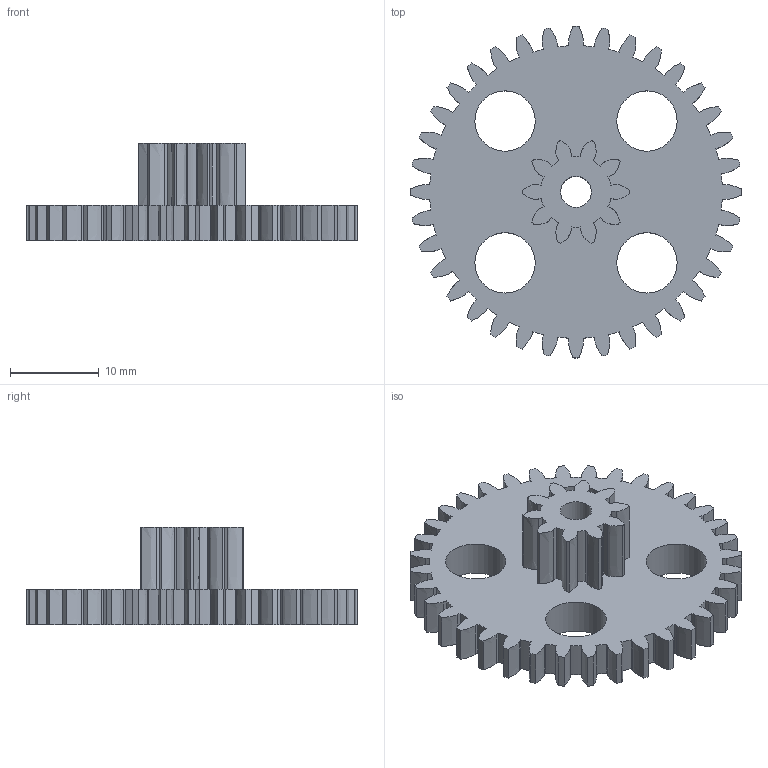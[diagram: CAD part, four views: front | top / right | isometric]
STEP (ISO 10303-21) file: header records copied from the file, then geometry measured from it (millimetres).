
FILE_DESCRIPTION(('Open CASCADE Model'),'2;1');
FILE_NAME('Open CASCADE Shape Model','2026-10-12T22:10:17',('Author'),( 'Open CASCADE'),'Open CASCADE STEP processor 7.9','Open CASCADE 7.9' ,'Unknown');
FILE_SCHEMA(('AUTOMOTIVE_DESIGN { 1 0 10303 214 1 1 1 1 }'));
Length unit declared in the file: millimetre
Products named in the file (1): Open CASCADE STEP translator 7.9 21
Bounding box: 37.4 x 37.4 x 11 mm (x, y, z)
Volume: 3703.2 mm3; surface area: 3435.7 mm2
Topology: 1 solids, 1 shells, 284 faces, 843 edges, 562 vertices
Faces by surface type: cylinder 97, plane 95, extrusion 92
Full cylindrical faces by diameter (mm): 3.5 x1, 6.8 x4
Entity records: 22974 total; most frequent: CARTESIAN_POINT 6596, DIRECTION 2833, VECTOR 1865, LINE 1773, ORIENTED_EDGE 1686, PCURVE 1686, DEFINITIONAL_REPRESENTATION 1686, EDGE_CURVE 843
